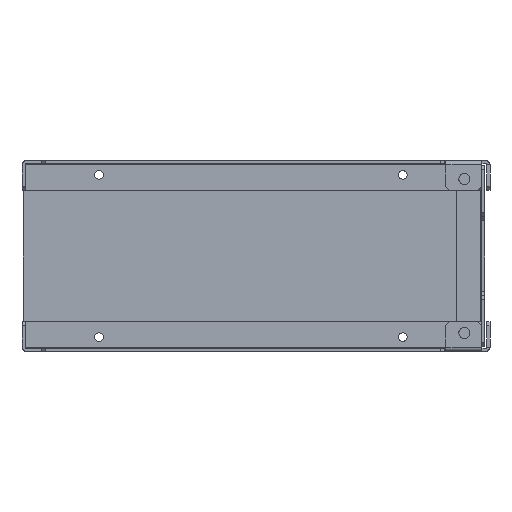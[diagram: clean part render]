
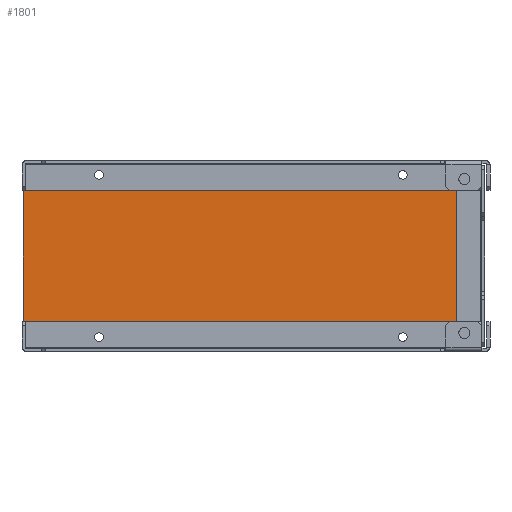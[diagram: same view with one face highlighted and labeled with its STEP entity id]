
A CAD part, front view. The second image highlights one B-rep face of the part: STEP entity #1801.
In plain terms, the highlighted planar face has unit normal (0, -1, 0) as drawn and (0, 0, 1) by its records, which use the part's own axes.
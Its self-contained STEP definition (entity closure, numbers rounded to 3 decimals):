
#366=CARTESIAN_POINT(' ',(71.25,-39.5,0.));
#367=VERTEX_POINT(' ',#366);
#381=CARTESIAN_POINT(' ',(74.,-39.5,0.));
#386=DIRECTION(' ',(0.,-0.,1.));
#391=DIRECTION(' ',(-1.,0.,0.));
#396=AXIS2_PLACEMENT_3D(' ',#381,#386,#391);
#401=CIRCLE('',#396,2.75);
#406=CARTESIAN_POINT(' ',(76.75,-39.5,0.));
#407=VERTEX_POINT(' ',#406);
#411=EDGE_CURVE(' ',#367,#407,#401,.T.);
#1146=CARTESIAN_POINT(' ',(74.,-39.5,0.));
#1151=DIRECTION(' ',(0.,0.,1.));
#1156=DIRECTION(' ',(1.,0.,0.));
#1161=AXIS2_PLACEMENT_3D(' ',#1146,#1151,#1156);
#1166=CIRCLE('',#1161,2.75);
#1171=EDGE_CURVE(' ',#407,#367,#1166,.T.);
#1196=DIRECTION(' ',(-0.,0.,1.));
#1201=CARTESIAN_POINT(' ',(-111.,-46.5,0.));
#1206=DIRECTION(' ',(1.,0.,0.));
#1211=AXIS2_PLACEMENT_3D(' ',#1201,#1196,#1206);
#1216=PLANE('NONE',#1211);
#1221=CARTESIAN_POINT(' ',(-111.,41.5,0.));
#1226=DIRECTION(' ',(0.,-1.,0.));
#1231=VECTOR(' ',#1226,1.);
#1236=LINE('',#1221,#1231);
#1241=CARTESIAN_POINT(' ',(-111.,41.5,0.));
#1242=VERTEX_POINT(' ',#1241);
#1246=CARTESIAN_POINT(' ',(-111.,-41.5,0.));
#1247=VERTEX_POINT(' ',#1246);
#1251=EDGE_CURVE(' ',#1242,#1247,#1236,.T.);
#1256=ORIENTED_EDGE(' ',*,*,#1251,.T.);
#1261=CARTESIAN_POINT(' ',(-111.,-41.5,0.));
#1266=DIRECTION(' ',(0.707,-0.707,0.));
#1271=VECTOR(' ',#1266,1.);
#1276=LINE('',#1261,#1271);
#1281=CARTESIAN_POINT(' ',(-106.,-46.5,0.));
#1282=VERTEX_POINT(' ',#1281);
#1286=EDGE_CURVE(' ',#1247,#1282,#1276,.T.);
#1291=ORIENTED_EDGE(' ',*,*,#1286,.T.);
#1296=CARTESIAN_POINT(' ',(-106.,-46.5,0.));
#1301=DIRECTION(' ',(1.,0.,0.));
#1306=VECTOR(' ',#1301,1.);
#1311=LINE('',#1296,#1306);
#1316=CARTESIAN_POINT(' ',(106.,-46.5,0.));
#1317=VERTEX_POINT(' ',#1316);
#1321=EDGE_CURVE(' ',#1282,#1317,#1311,.T.);
#1326=ORIENTED_EDGE(' ',*,*,#1321,.T.);
#1331=CARTESIAN_POINT(' ',(106.,-46.5,0.));
#1336=DIRECTION(' ',(0.707,0.707,0.));
#1341=VECTOR(' ',#1336,1.);
#1346=LINE('',#1331,#1341);
#1351=CARTESIAN_POINT(' ',(111.,-41.5,0.));
#1352=VERTEX_POINT(' ',#1351);
#1356=EDGE_CURVE(' ',#1317,#1352,#1346,.T.);
#1361=ORIENTED_EDGE(' ',*,*,#1356,.T.);
#1366=CARTESIAN_POINT(' ',(111.,-41.5,0.));
#1371=DIRECTION(' ',(0.,1.,0.));
#1376=VECTOR(' ',#1371,1.);
#1381=LINE('',#1366,#1376);
#1386=CARTESIAN_POINT(' ',(111.,41.5,0.));
#1387=VERTEX_POINT(' ',#1386);
#1391=EDGE_CURVE(' ',#1352,#1387,#1381,.T.);
#1396=ORIENTED_EDGE(' ',*,*,#1391,.T.);
#1401=CARTESIAN_POINT(' ',(111.,41.5,0.));
#1406=DIRECTION(' ',(-0.707,0.707,0.));
#1411=VECTOR(' ',#1406,1.);
#1416=LINE('',#1401,#1411);
#1421=CARTESIAN_POINT(' ',(106.,46.5,0.));
#1422=VERTEX_POINT(' ',#1421);
#1426=EDGE_CURVE(' ',#1387,#1422,#1416,.T.);
#1431=ORIENTED_EDGE(' ',*,*,#1426,.T.);
#1436=CARTESIAN_POINT(' ',(106.,46.5,0.));
#1441=DIRECTION(' ',(-1.,0.,0.));
#1446=VECTOR(' ',#1441,1.);
#1451=LINE('',#1436,#1446);
#1456=CARTESIAN_POINT(' ',(-106.,46.5,0.));
#1457=VERTEX_POINT(' ',#1456);
#1461=EDGE_CURVE(' ',#1422,#1457,#1451,.T.);
#1466=ORIENTED_EDGE(' ',*,*,#1461,.T.);
#1471=CARTESIAN_POINT(' ',(-106.,46.5,0.));
#1476=DIRECTION(' ',(-0.707,-0.707,0.));
#1481=VECTOR(' ',#1476,1.);
#1486=LINE('',#1471,#1481);
#1491=EDGE_CURVE(' ',#1457,#1242,#1486,.T.);
#1496=ORIENTED_EDGE(' ',*,*,#1491,.T.);
#1501=EDGE_LOOP(' ',(#1256,#1291,#1326,#1361,#1396,#1431,#1466,#1496));
#1506=FACE_OUTER_BOUND(' ',#1501,.T.);
#1511=ORIENTED_EDGE(' ',*,*,#1171,.F.);
#1516=ORIENTED_EDGE(' ',*,*,#411,.F.);
#1521=EDGE_LOOP(' ',(#1511,#1516));
#1526=FACE_BOUND(' ',#1521,.T.);
#1531=CARTESIAN_POINT(' ',(74.,39.5,0.));
#1536=DIRECTION(' ',(0.,0.,1.));
#1541=DIRECTION(' ',(1.,0.,0.));
#1546=AXIS2_PLACEMENT_3D(' ',#1531,#1536,#1541);
#1551=CIRCLE('',#1546,2.75);
#1556=CARTESIAN_POINT(' ',(76.75,39.5,0.));
#1557=VERTEX_POINT(' ',#1556);
#1561=CARTESIAN_POINT(' ',(71.25,39.5,0.));
#1562=VERTEX_POINT(' ',#1561);
#1566=EDGE_CURVE(' ',#1557,#1562,#1551,.T.);
#1571=ORIENTED_EDGE(' ',*,*,#1566,.F.);
#1576=CARTESIAN_POINT(' ',(74.,39.5,0.));
#1581=DIRECTION(' ',(0.,-0.,1.));
#1586=DIRECTION(' ',(-1.,0.,0.));
#1591=AXIS2_PLACEMENT_3D(' ',#1576,#1581,#1586);
#1596=CIRCLE('',#1591,2.75);
#1601=EDGE_CURVE(' ',#1562,#1557,#1596,.T.);
#1606=ORIENTED_EDGE(' ',*,*,#1601,.F.);
#1611=EDGE_LOOP(' ',(#1571,#1606));
#1616=FACE_BOUND(' ',#1611,.T.);
#1621=CARTESIAN_POINT(' ',(-74.,39.5,0.));
#1626=DIRECTION(' ',(0.,0.,1.));
#1631=DIRECTION(' ',(1.,0.,0.));
#1636=AXIS2_PLACEMENT_3D(' ',#1621,#1626,#1631);
#1641=CIRCLE('',#1636,2.75);
#1646=CARTESIAN_POINT(' ',(-71.25,39.5,0.));
#1647=VERTEX_POINT(' ',#1646);
#1651=CARTESIAN_POINT(' ',(-76.75,39.5,0.));
#1652=VERTEX_POINT(' ',#1651);
#1656=EDGE_CURVE(' ',#1647,#1652,#1641,.T.);
#1661=ORIENTED_EDGE(' ',*,*,#1656,.F.);
#1666=CARTESIAN_POINT(' ',(-74.,39.5,0.));
#1671=DIRECTION(' ',(0.,-0.,1.));
#1676=DIRECTION(' ',(-1.,0.,0.));
#1681=AXIS2_PLACEMENT_3D(' ',#1666,#1671,#1676);
#1686=CIRCLE('',#1681,2.75);
#1691=EDGE_CURVE(' ',#1652,#1647,#1686,.T.);
#1696=ORIENTED_EDGE(' ',*,*,#1691,.F.);
#1701=EDGE_LOOP(' ',(#1661,#1696));
#1706=FACE_BOUND(' ',#1701,.T.);
#1711=CARTESIAN_POINT(' ',(-74.,-39.5,0.));
#1716=DIRECTION(' ',(0.,0.,1.));
#1721=DIRECTION(' ',(1.,0.,0.));
#1726=AXIS2_PLACEMENT_3D(' ',#1711,#1716,#1721);
#1731=CIRCLE('',#1726,2.75);
#1736=CARTESIAN_POINT(' ',(-71.25,-39.5,0.));
#1737=VERTEX_POINT(' ',#1736);
#1741=CARTESIAN_POINT(' ',(-76.75,-39.5,0.));
#1742=VERTEX_POINT(' ',#1741);
#1746=EDGE_CURVE(' ',#1737,#1742,#1731,.T.);
#1751=ORIENTED_EDGE(' ',*,*,#1746,.F.);
#1756=CARTESIAN_POINT(' ',(-74.,-39.5,0.));
#1761=DIRECTION(' ',(0.,-0.,1.));
#1766=DIRECTION(' ',(-1.,0.,0.));
#1771=AXIS2_PLACEMENT_3D(' ',#1756,#1761,#1766);
#1776=CIRCLE('',#1771,2.75);
#1781=EDGE_CURVE(' ',#1742,#1737,#1776,.T.);
#1786=ORIENTED_EDGE(' ',*,*,#1781,.F.);
#1791=EDGE_LOOP(' ',(#1751,#1786));
#1796=FACE_BOUND(' ',#1791,.T.);
#1801=ADVANCED_FACE('NONE',(#1506,#1526,#1616,#1706,#1796),#1216,.T.);
